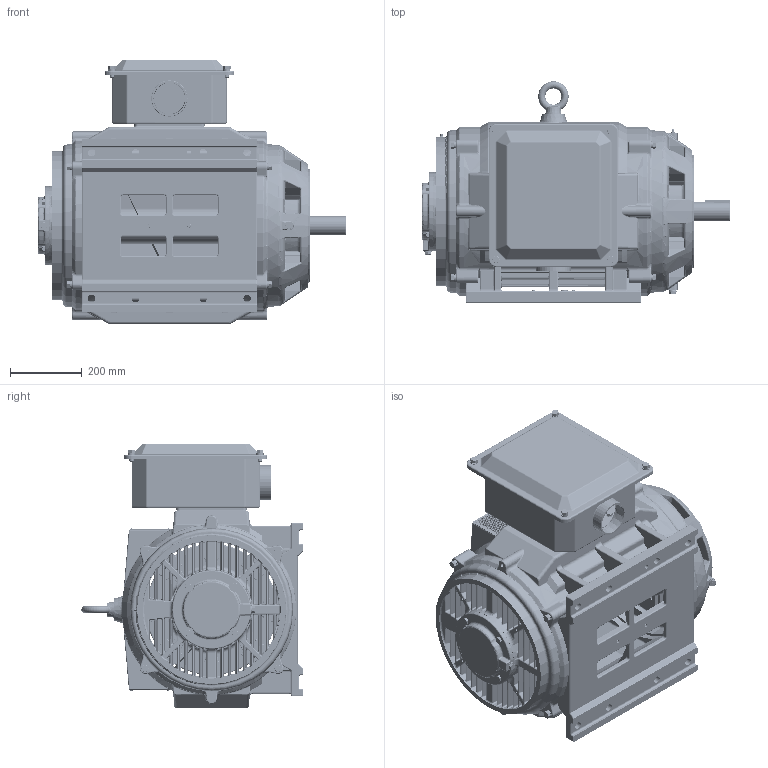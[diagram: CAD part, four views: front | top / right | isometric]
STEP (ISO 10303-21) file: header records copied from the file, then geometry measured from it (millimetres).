
FILE_DESCRIPTION (( 'STEP AP203' ), '1' );
FILE_NAME ('SS620753-100_RevC.STEP', '2022-07-14T00:08:22', ( '' ), ( '' ), 'SwSTEP 2.0', 'SolidWorks 2021', '' );
FILE_SCHEMA (( 'CONFIG_CONTROL_DESIGN' ));
Products named in the file (1): SS620753-100_RevC
Bounding box: 859.9 x 617 x 737.5 mm (x, y, z)
Volume: 36210018.4 mm3; surface area: 5616322.6 mm2
Topology: 78 solids, 79 shells, 13006 faces, 35682 edges, 22569 vertices
Faces by surface type: cylinder 5400, plane 4590, bspline 1575, torus 950, cone 368, sphere 123
Full cylindrical faces by diameter (mm): 1 x8
Entity records: 524151 total; most frequent: CARTESIAN_POINT 197925, ORIENTED_EDGE 70852, DIRECTION 66235, EDGE_CURVE 35426, AXIS2_PLACEMENT_3D 24334, VERTEX_POINT 22567, VECTOR 17567, LINE 17567
